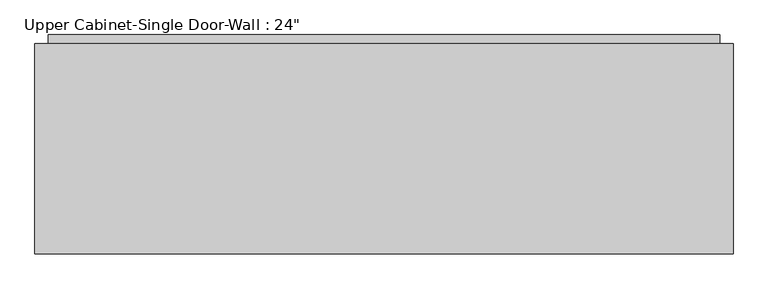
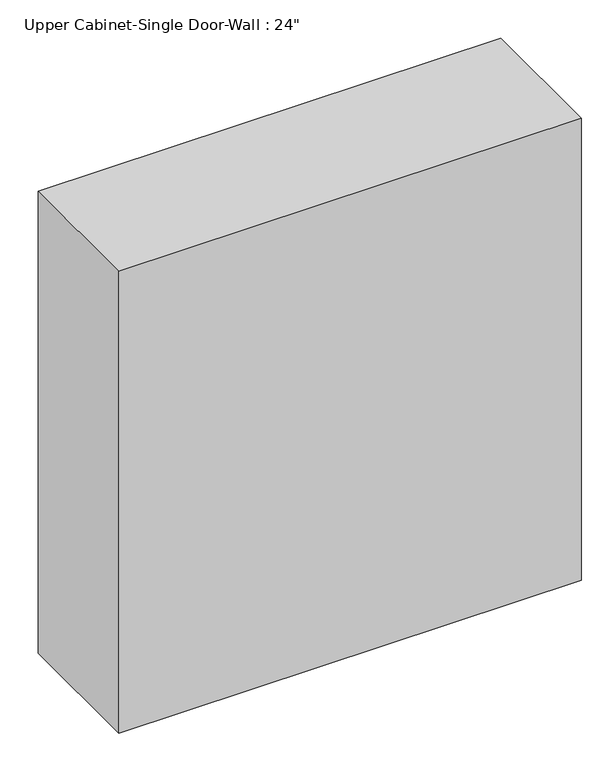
"""IFC4 building model written with IfcOpenShell, lengths in millimetres: furniture geometry."""

from ifc_helpers import new_model, si_unit, frame, origin, place, context, project, spatial, polyline, outline, extrude, faceted_brep, source, transform, mapped, element, save


def furniture_cde854b6(model_context):
    return source(origin(), model_context, "Body", "SolidModel", [
        faceted_brep([(-751.7124125, 76.2, 2133.6), (-751.7124125, 76.2, 1066.8), (258.3711628, 76.2, 1066.8), (258.3711628, 76.2, 2133.6), (-751.7124125, 381.0, 2133.6), (258.3711628, 381.0, 2133.6), (258.3711628, 381.0, 1066.8), (-751.7124125, 381.0, 1066.8), (-732.6624125, 381.0, 2114.55), (-732.6624125, 381.0, 1085.85), (239.3211628, 381.0, 1085.85), (239.3211628, 381.0, 2114.55), (239.3211628, 95.25, 2114.55), (-732.6624125, 95.25, 2114.55), (239.3211628, 95.25, 1085.85), (-732.6624125, 95.25, 1085.85)], [[[0, 1, 2, 3]], [[4, 5, 6, 7], [8, 9, 10, 11]], [[1, 0, 4, 7]], [[2, 1, 7, 6]], [[3, 2, 6, 5]], [[0, 3, 5, 4]], [[8, 11, 12, 13]], [[11, 10, 14, 12]], [[10, 9, 15, 14]], [[9, 8, 13, 15]], [[13, 12, 14, 15]]]),
        extrude(outline(polyline([(-732.6624125, 393.7), (239.3211628, 393.7), (239.3211628, 361.95), (-732.6624125, 361.95), (-732.6624125, 393.7)])), frame((0.0, 0.0, 1085.85), z_axis=(0.0, 0.0, 1.0), x_axis=(1.0, 0.0, 0.0)), (0.0, 0.0, 1.0), 1028.7),
    ])


if __name__ == "__main__":
    model = new_model("IFC4")
    model_context = context("Model", 3, world=origin())
    ifc_project = project(units=[si_unit("LENGTHUNIT", "METRE", prefix="MILLI")], contexts=[model_context])
    site = spatial("IfcSite", under=ifc_project)
    building = spatial("IfcBuilding", under=site)
    placement = place(None, origin())
    furniture_shape = furniture_cde854b6(model_context)
    element("IfcFurniture", 1, ObjectType="Upper Cabinet-Single Door-Wall : 24\"", at=placement, inside=building, context=model_context, shape_type="MappedRepresentation", body=[
        mapped(furniture_shape, transform((0.0, 0.0, 0.0), x_axis=(1.0, 0.0, 0.0), y_axis=(0.0, 1.0, 0.0), z_axis=(0.0, 0.0, 1.0))),
    ])
    save(model, "model.ifc")
